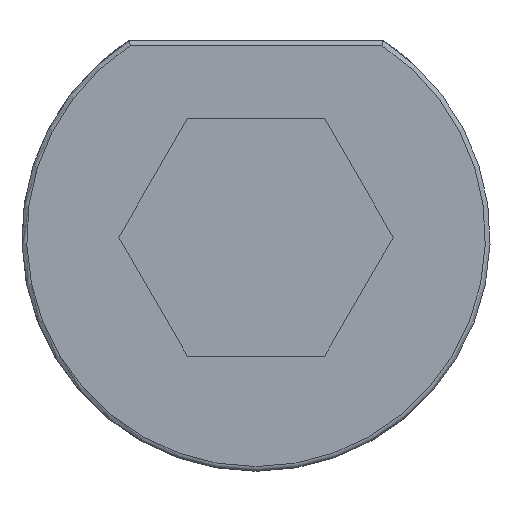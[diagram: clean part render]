
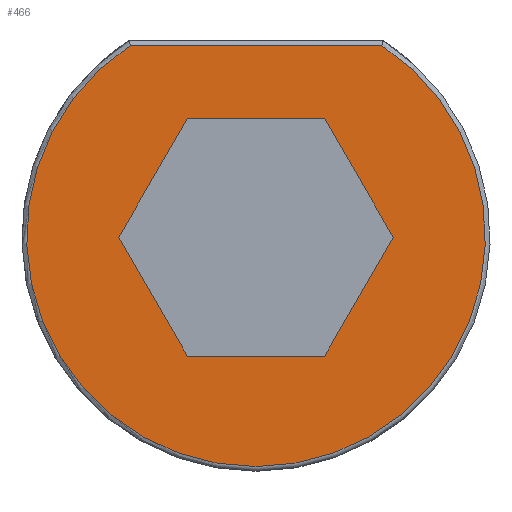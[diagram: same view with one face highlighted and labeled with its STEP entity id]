
A CAD part, front view. The second image highlights one B-rep face of the part: STEP entity #466.
In plain terms, the highlighted planar face has unit normal (0, -1, 0).
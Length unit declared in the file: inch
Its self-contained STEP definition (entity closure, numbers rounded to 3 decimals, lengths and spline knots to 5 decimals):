
#20=FACE_BOUND('',#92,.T.);
#25=PLANE('',#510);
#38=CIRCLE('',#507,0.4825);
#64=FACE_OUTER_BOUND('',#91,.T.);
#91=EDGE_LOOP('',(#331,#332));
#92=EDGE_LOOP('',(#333,#334,#335,#336,#337,#338));
#130=LINE('',#691,#167);
#134=LINE('',#735,#171);
#135=LINE('',#737,#172);
#136=LINE('',#739,#173);
#137=LINE('',#741,#174);
#138=LINE('',#743,#175);
#139=LINE('',#744,#176);
#167=VECTOR('',#556,0.3937);
#171=VECTOR('',#572,0.3937);
#172=VECTOR('',#573,0.3937);
#173=VECTOR('',#574,0.3937);
#174=VECTOR('',#575,0.3937);
#175=VECTOR('',#576,0.3937);
#176=VECTOR('',#577,0.3937);
#204=VERTEX_POINT('',#689);
#205=VERTEX_POINT('',#690);
#210=VERTEX_POINT('',#733);
#211=VERTEX_POINT('',#734);
#212=VERTEX_POINT('',#736);
#213=VERTEX_POINT('',#738);
#214=VERTEX_POINT('',#740);
#215=VERTEX_POINT('',#742);
#250=EDGE_CURVE('',#204,#205,#130,.T.);
#255=EDGE_CURVE('',#205,#204,#38,.T.);
#259=EDGE_CURVE('',#210,#211,#134,.T.);
#260=EDGE_CURVE('',#211,#212,#135,.T.);
#261=EDGE_CURVE('',#212,#213,#136,.T.);
#262=EDGE_CURVE('',#213,#214,#137,.T.);
#263=EDGE_CURVE('',#214,#215,#138,.T.);
#264=EDGE_CURVE('',#215,#210,#139,.T.);
#331=ORIENTED_EDGE('',*,*,#250,.F.);
#332=ORIENTED_EDGE('',*,*,#255,.F.);
#333=ORIENTED_EDGE('',*,*,#259,.T.);
#334=ORIENTED_EDGE('',*,*,#260,.T.);
#335=ORIENTED_EDGE('',*,*,#261,.T.);
#336=ORIENTED_EDGE('',*,*,#262,.T.);
#337=ORIENTED_EDGE('',*,*,#263,.T.);
#338=ORIENTED_EDGE('',*,*,#264,.T.);
#466=ADVANCED_FACE('',(#64,#20),#25,.T.);
#507=AXIS2_PLACEMENT_3D('',#725,#562,#563);
#510=AXIS2_PLACEMENT_3D('',#732,#570,#571);
#556=DIRECTION('',(1.,0.,0.));
#562=DIRECTION('center_axis',(0.,1.,0.));
#563=DIRECTION('ref_axis',(0.,0.,
-1.));
#570=DIRECTION('center_axis',(0.,-1.,0.));
#571=DIRECTION('ref_axis',(0.,0.,-1.));
#572=DIRECTION('',(1.,0.,0.));
#573=DIRECTION('',(0.5,0.,-0.866));
#574=DIRECTION('',(-0.5,0.,-0.866));
#575=DIRECTION('',(-1.,0.,0.));
#576=DIRECTION('',(-0.5,0.,0.866));
#577=DIRECTION('',(0.5,0.,0.866));
#689=CARTESIAN_POINT('',(-0.26456,0.,0.4035));
#690=CARTESIAN_POINT('',(0.26456,0.,0.4035));
#691=CARTESIAN_POINT('',(0.20887,0.,0.4035));
#725=CARTESIAN_POINT('Origin',(0.,0.,0.));
#732=CARTESIAN_POINT('Origin',(0.,0.,0.));
#733=CARTESIAN_POINT('',(-0.14434,0.,0.25));
#734=CARTESIAN_POINT('',(0.14434,0.,0.25));
#735=CARTESIAN_POINT('',(-0.07217,0.,0.25));
#736=CARTESIAN_POINT('',(0.28868,0.,0.));
#737=CARTESIAN_POINT('',(0.18042,0.,0.1875));
#738=CARTESIAN_POINT('',(0.14434,0.,-0.25));
#739=CARTESIAN_POINT('',(0.25259,0.,-0.0625));
#740=CARTESIAN_POINT('',(-0.14434,0.,-0.25));
#741=CARTESIAN_POINT('',(0.07217,0.,-0.25));
#742=CARTESIAN_POINT('',(-0.28868,0.,0.));
#743=CARTESIAN_POINT('',(-0.18042,0.,-0.1875));
#744=CARTESIAN_POINT('',(-0.25259,0.,0.0625));
